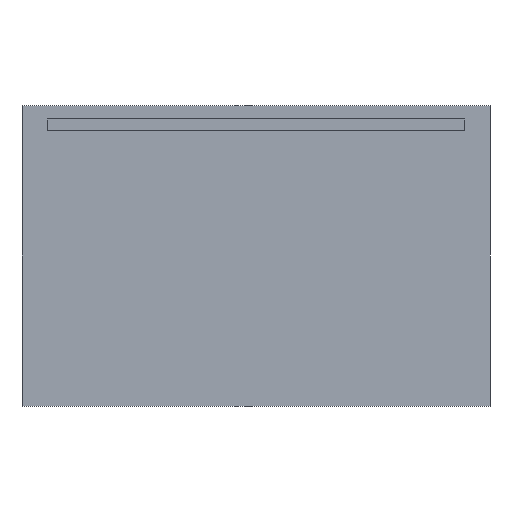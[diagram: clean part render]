
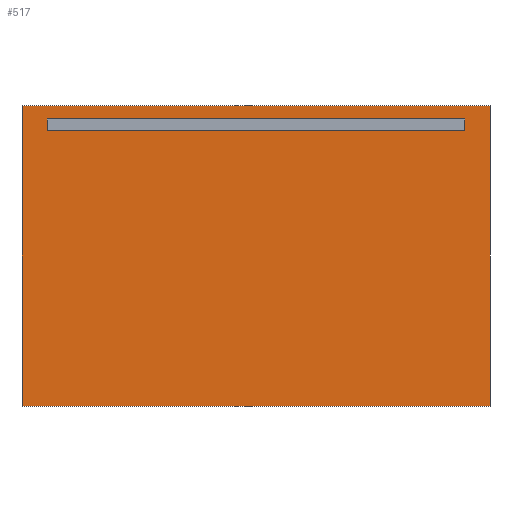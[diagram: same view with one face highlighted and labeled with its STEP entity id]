
A CAD part, front view. The second image highlights one B-rep face of the part: STEP entity #517.
In plain terms, the highlighted planar face has unit normal (0, -1, 0).
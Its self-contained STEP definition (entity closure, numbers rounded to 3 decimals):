
#47=FACE_BOUND('',#92,.T.);
#62=FACE_OUTER_BOUND('',#91,.T.);
#91=EDGE_LOOP('',(#359,#360,#361,#362));
#92=EDGE_LOOP('',(#363,#364,#365,#366));
#115=LINE('',#766,#159);
#119=LINE('',#774,#163);
#122=LINE('',#780,#166);
#125=LINE('',#785,#169);
#127=LINE('',#791,#171);
#131=LINE('',#799,#175);
#134=LINE('',#805,#178);
#137=LINE('',#810,#181);
#159=VECTOR('',#614,10.);
#163=VECTOR('',#620,10.);
#166=VECTOR('',#625,10.);
#169=VECTOR('',#630,10.);
#171=VECTOR('',#636,10.);
#175=VECTOR('',#642,10.);
#178=VECTOR('',#647,10.);
#181=VECTOR('',#652,10.);
#203=VERTEX_POINT('',#764);
#204=VERTEX_POINT('',#765);
#207=VERTEX_POINT('',#773);
#209=VERTEX_POINT('',#779);
#211=VERTEX_POINT('',#789);
#212=VERTEX_POINT('',#790);
#215=VERTEX_POINT('',#798);
#217=VERTEX_POINT('',#804);
#251=EDGE_CURVE('',#203,#204,#115,.T.);
#255=EDGE_CURVE('',#207,#203,#119,.T.);
#258=EDGE_CURVE('',#209,#207,#122,.T.);
#261=EDGE_CURVE('',#204,#209,#125,.T.);
#263=EDGE_CURVE('',#211,#212,#127,.T.);
#267=EDGE_CURVE('',#215,#211,#131,.T.);
#270=EDGE_CURVE('',#217,#215,#134,.T.);
#273=EDGE_CURVE('',#212,#217,#137,.T.);
#359=ORIENTED_EDGE('',*,*,#273,.F.);
#360=ORIENTED_EDGE('',*,*,#263,.F.);
#361=ORIENTED_EDGE('',*,*,#267,.F.);
#362=ORIENTED_EDGE('',*,*,#270,.F.);
#363=ORIENTED_EDGE('',*,*,#251,.T.);
#364=ORIENTED_EDGE('',*,*,#261,.T.);
#365=ORIENTED_EDGE('',*,*,#258,.T.);
#366=ORIENTED_EDGE('',*,*,#255,.T.);
#465=PLANE('',#567);
#517=ADVANCED_FACE('',(#62,#47),#465,.F.);
#567=AXIS2_PLACEMENT_3D('',#813,#656,#657);
#614=DIRECTION('',(0.,0.,-1.));
#620=DIRECTION('',(1.,0.,0.));
#625=DIRECTION('',(0.,0.,1.));
#630=DIRECTION('',(-1.,0.,0.));
#636=DIRECTION('',(0.,0.,1.));
#642=DIRECTION('',(-1.,0.,0.));
#647=DIRECTION('',(0.,0.,-1.));
#652=DIRECTION('',(1.,0.,0.));
#656=DIRECTION('center_axis',(0.,1.,0.));
#657=DIRECTION('ref_axis',(0.,0.,1.));
#764=CARTESIAN_POINT('',(625.,-26.,860.));
#765=CARTESIAN_POINT('',(625.,-26.,825.));
#766=CARTESIAN_POINT('',(625.,-26.,655.));
#773=CARTESIAN_POINT('',(-625.,-26.,860.));
#774=CARTESIAN_POINT('',(-312.5,-26.,860.));
#779=CARTESIAN_POINT('',(-625.,-26.,825.));
#780=CARTESIAN_POINT('',(-625.,-26.,637.5));
#785=CARTESIAN_POINT('',(312.5,-26.,825.));
#789=CARTESIAN_POINT('',(-700.,-26.,0.));
#790=CARTESIAN_POINT('',(-700.,-26.,900.));
#791=CARTESIAN_POINT('',(-700.,-26.,0.));
#798=CARTESIAN_POINT('',(700.,-26.,0.));
#799=CARTESIAN_POINT('',(700.,-26.,0.));
#804=CARTESIAN_POINT('',(700.,-26.,900.));
#805=CARTESIAN_POINT('',(700.,-26.,900.));
#810=CARTESIAN_POINT('',(-700.,-26.,900.));
#813=CARTESIAN_POINT('Origin',(0.,-26.,450.));
